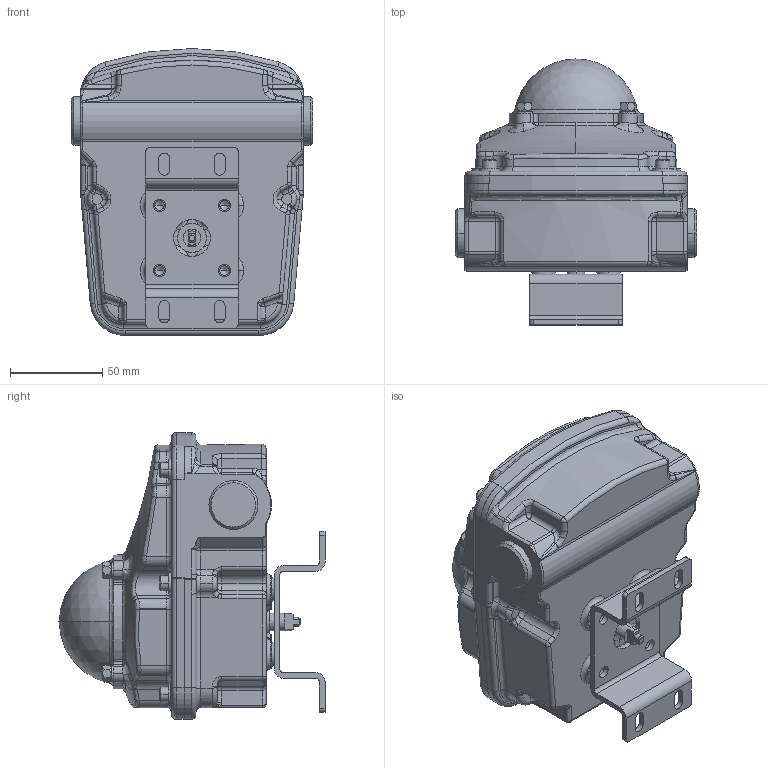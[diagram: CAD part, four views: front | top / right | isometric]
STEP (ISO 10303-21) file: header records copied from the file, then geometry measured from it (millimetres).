
FILE_DESCRIPTION (( 'STEP AP214' ), '1' );
FILE_NAME ('S5B_with_SinglePieceBracket.STEP', '2018-10-15T13:13:03', ( '' ), ( '' ), 'SwSTEP 2.0', 'SolidWorks 2018', '' );
FILE_SCHEMA (( 'AUTOMOTIVE_DESIGN' ));
Length unit declared in the file: millimetre
Products named in the file (3): S5B Al (EC)SIMPLE-ForCOMP2; S5B_with_SinglePieceBracket; Single Piece 
Assembly tree (2 placements, depth 2):
  S5B_with_SinglePieceBracket
    Single Piece 
    S5B Al (EC)SIMPLE-ForCOMP2
Bounding box: 130.81 x 144.29 x 155.57 mm (x, y, z)
Volume: 1189472.3 mm3; surface area: 88886.9 mm2
Topology: 2 solids, 4 shells, 888 faces, 2154 edges, 1266 vertices
Faces by surface type: cylinder 273, bspline 178, plane 165, torus 151, cone 95, sphere 26
Entity records: 42863 total; most frequent: CARTESIAN_POINT 14136, ORIENTED_EDGE 4232, DIRECTION 4077, EDGE_CURVE 2116, AXIS2_PLACEMENT_3D 1753, VERTEX_POINT 1266, CIRCLE 1038, EDGE_LOOP 940
